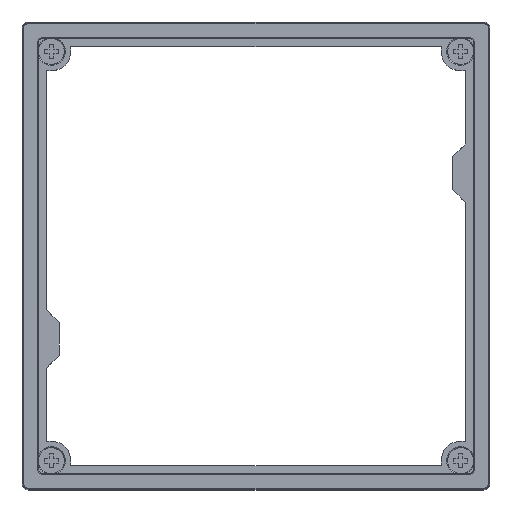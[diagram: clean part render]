
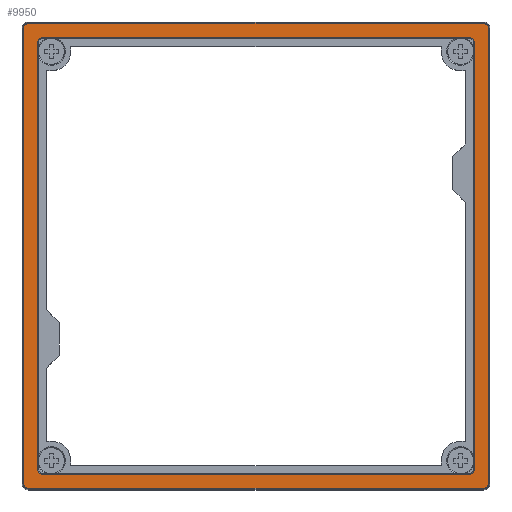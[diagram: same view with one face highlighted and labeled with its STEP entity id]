
A CAD part, top view. The second image highlights one B-rep face of the part: STEP entity #9950.
In plain terms, the highlighted planar face has unit normal (0, 0, 1).
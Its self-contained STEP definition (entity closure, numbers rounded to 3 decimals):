
#7970=CARTESIAN_POINT('',(2.,143.577,8.));
#7980=VERTEX_POINT('',#7970);
#8010=CARTESIAN_POINT('',(2.,142.05,8.));
#8020=DIRECTION('',(0.,0.,-1.));
#8030=DIRECTION('',(-1.,0.,0.));
#8040=AXIS2_PLACEMENT_3D('',#8010,#8020,#8030);
#8050=CIRCLE('',#8040,1.527);
#8060=CARTESIAN_POINT('',(0.473,142.05,8.));
#8070=VERTEX_POINT('',#8060);
#8080=EDGE_CURVE('',#8070,#7980,#8050,.T.);
#8340=CARTESIAN_POINT('',(0.,139.271,8.));
#8350=DIRECTION('',(-1.,0.,0.));
#8360=VECTOR('',#8350,1.);
#8370=LINE('',#8340,#8360);
#8380=CARTESIAN_POINT('',(137.5,139.271,8.));
#8390=VERTEX_POINT('',#8380);
#8400=CARTESIAN_POINT('',(6.5,139.271,8.));
#8410=VERTEX_POINT('',#8400);
#8420=EDGE_CURVE('',#8390,#8410,#8370,.T.);
#8690=CARTESIAN_POINT('',(0.,72.05,8.));
#8700=DIRECTION('',(0.,0.,1.));
#8710=DIRECTION('',(1.,0.,0.));
#8720=AXIS2_PLACEMENT_3D('',#8690,#8700,#8710);
#8730=PLANE('',#8720);
#8740=CARTESIAN_POINT('',(137.5,137.55,8.));
#8750=DIRECTION('',(0.,0.,1.));
#8760=DIRECTION('',(1.,0.,0.));
#8770=AXIS2_PLACEMENT_3D('',#8740,#8750,#8760);
#8780=CIRCLE('',#8770,1.721);
#8790=CARTESIAN_POINT('',(139.221,137.55,8.));
#8800=VERTEX_POINT('',#8790);
#8810=EDGE_CURVE('',#8800,#8390,#8780,.T.);
#8820=ORIENTED_EDGE('',*,*,#8810,.F.);
#8830=ORIENTED_EDGE('',*,*,#8420,.F.);
#8840=CARTESIAN_POINT('',(6.5,137.55,8.));
#8850=DIRECTION('',(0.,0.,1.));
#8860=DIRECTION('',(1.,0.,0.));
#8870=AXIS2_PLACEMENT_3D('',#8840,#8850,#8860);
#8880=CIRCLE('',#8870,1.721);
#8890=CARTESIAN_POINT('',(4.779,137.55,8.));
#8900=VERTEX_POINT('',#8890);
#8910=EDGE_CURVE('',#8410,#8900,#8880,.T.);
#8920=ORIENTED_EDGE('',*,*,#8910,.F.);
#8930=CARTESIAN_POINT('',(4.779,0.,8.));
#8940=DIRECTION('',(0.,1.,0.));
#8950=VECTOR('',#8940,1.);
#8960=LINE('',#8930,#8950);
#8970=CARTESIAN_POINT('',(4.779,6.5,8.));
#8980=VERTEX_POINT('',#8970);
#8990=EDGE_CURVE('',#8980,#8900,#8960,.T.);
#9000=ORIENTED_EDGE('',*,*,#8990,.T.);
#9010=CARTESIAN_POINT('',(6.5,6.5,8.));
#9020=DIRECTION('',(0.,0.,1.));
#9030=DIRECTION('',(1.,0.,0.));
#9040=AXIS2_PLACEMENT_3D('',#9010,#9020,#9030);
#9050=CIRCLE('',#9040,1.721);
#9060=CARTESIAN_POINT('',(6.5,4.779,8.));
#9070=VERTEX_POINT('',#9060);
#9080=EDGE_CURVE('',#8980,#9070,#9050,.T.);
#9090=ORIENTED_EDGE('',*,*,#9080,.F.);
#9100=CARTESIAN_POINT('',(0.,4.779,8.));
#9110=DIRECTION('',(-1.,0.,0.));
#9120=VECTOR('',#9110,1.);
#9130=LINE('',#9100,#9120);
#9140=CARTESIAN_POINT('',(137.5,4.779,8.));
#9150=VERTEX_POINT('',#9140);
#9160=EDGE_CURVE('',#9150,#9070,#9130,.T.);
#9170=ORIENTED_EDGE('',*,*,#9160,.T.);
#9180=CARTESIAN_POINT('',(137.5,6.5,8.));
#9190=DIRECTION('',(0.,0.,1.));
#9200=DIRECTION('',(1.,0.,0.));
#9210=AXIS2_PLACEMENT_3D('',#9180,#9190,#9200);
#9220=CIRCLE('',#9210,1.721);
#9230=CARTESIAN_POINT('',(139.221,6.5,8.));
#9240=VERTEX_POINT('',#9230);
#9250=EDGE_CURVE('',#9150,#9240,#9220,.T.);
#9260=ORIENTED_EDGE('',*,*,#9250,.F.);
#9270=CARTESIAN_POINT('',(139.221,0.,8.));
#9280=DIRECTION('',(0.,-1.,0.));
#9290=VECTOR('',#9280,1.);
#9300=LINE('',#9270,#9290);
#9310=EDGE_CURVE('',#8800,#9240,#9300,.T.);
#9320=ORIENTED_EDGE('',*,*,#9310,.T.);
#9330=EDGE_LOOP('',(#9320,#9260,#9170,#9090,#9000,#8920,#8830,#8820));
#9340=FACE_BOUND('',#9330,.T.);
#9350=CARTESIAN_POINT('',(142.,2.,8.));
#9360=DIRECTION('',(0.,0.,-1.));
#9370=DIRECTION('',(-1.,0.,0.));
#9380=AXIS2_PLACEMENT_3D('',#9350,#9360,#9370);
#9390=CIRCLE('',#9380,1.527);
#9400=CARTESIAN_POINT('',(143.527,2.,8.));
#9410=VERTEX_POINT('',#9400);
#9420=CARTESIAN_POINT('',(142.,0.473,8.));
#9430=VERTEX_POINT('',#9420);
#9440=EDGE_CURVE('',#9410,#9430,#9390,.T.);
#9450=ORIENTED_EDGE('',*,*,#9440,.F.);
#9460=CARTESIAN_POINT('',(0.,0.473,8.));
#9470=DIRECTION('',(1.,0.,0.));
#9480=VECTOR('',#9470,1.);
#9490=LINE('',#9460,#9480);
#9500=CARTESIAN_POINT('',(2.,0.473,8.));
#9510=VERTEX_POINT('',#9500);
#9520=EDGE_CURVE('',#9510,#9430,#9490,.T.);
#9530=ORIENTED_EDGE('',*,*,#9520,.T.);
#9540=CARTESIAN_POINT('',(2.,2.,8.));
#9550=DIRECTION('',(0.,0.,-1.));
#9560=DIRECTION('',(-1.,0.,0.));
#9570=AXIS2_PLACEMENT_3D('',#9540,#9550,#9560);
#9580=CIRCLE('',#9570,1.527);
#9590=CARTESIAN_POINT('',(0.473,2.,8.));
#9600=VERTEX_POINT('',#9590);
#9610=EDGE_CURVE('',#9510,#9600,#9580,.T.);
#9620=ORIENTED_EDGE('',*,*,#9610,.F.);
#9630=CARTESIAN_POINT('',(0.473,112.915,8.));
#9640=DIRECTION('',(0.,-1.,0.));
#9650=VECTOR('',#9640,1.);
#9660=LINE('',#9630,#9650);
#9670=EDGE_CURVE('',#8070,#9600,#9660,.T.);
#9680=ORIENTED_EDGE('',*,*,#9670,.T.);
#9690=ORIENTED_EDGE('',*,*,#8080,.F.);
#9700=CARTESIAN_POINT('',(0.,143.577,8.));
#9710=DIRECTION('',(-1.,0.,0.));
#9720=VECTOR('',#9710,1.);
#9730=LINE('',#9700,#9720);
#9740=CARTESIAN_POINT('',(142.,143.577,8.));
#9750=VERTEX_POINT('',#9740);
#9760=EDGE_CURVE('',#9750,#7980,#9730,.T.);
#9770=ORIENTED_EDGE('',*,*,#9760,.T.);
#9780=CARTESIAN_POINT('',(142.,142.05,8.));
#9790=DIRECTION('',(0.,0.,-1.));
#9800=DIRECTION('',(-1.,0.,0.));
#9810=AXIS2_PLACEMENT_3D('',#9780,#9790,#9800);
#9820=CIRCLE('',#9810,1.527);
#9830=CARTESIAN_POINT('',(143.527,142.05,8.));
#9840=VERTEX_POINT('',#9830);
#9850=EDGE_CURVE('',#9750,#9840,#9820,.T.);
#9860=ORIENTED_EDGE('',*,*,#9850,.F.);
#9870=CARTESIAN_POINT('',(143.527,0.,8.));
#9880=DIRECTION('',(0.,1.,0.));
#9890=VECTOR('',#9880,1.);
#9900=LINE('',#9870,#9890);
#9910=EDGE_CURVE('',#9410,#9840,#9900,.T.);
#9920=ORIENTED_EDGE('',*,*,#9910,.T.);
#9930=EDGE_LOOP('',(#9920,#9860,#9770,#9690,#9680,#9620,#9530,#9450));
#9940=FACE_OUTER_BOUND('',#9930,.T.);
#9950=ADVANCED_FACE('',(#9340,#9940),#8730,.T.);
